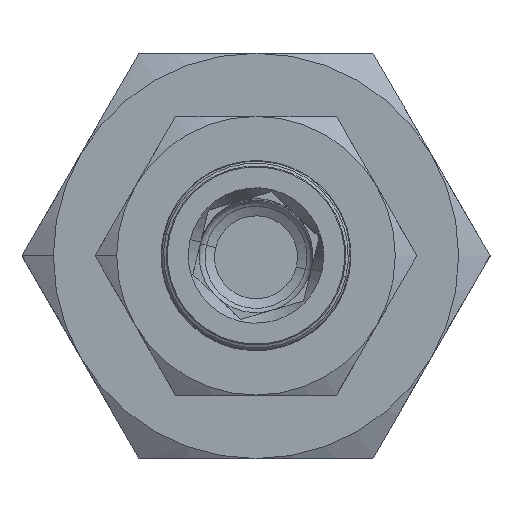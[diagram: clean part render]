
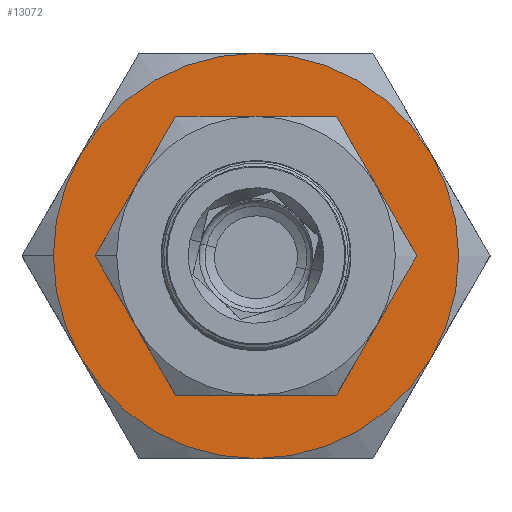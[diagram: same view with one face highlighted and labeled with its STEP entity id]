
A CAD part, top view. The second image highlights one B-rep face of the part: STEP entity #13072.
In plain terms, the highlighted planar face has unit normal (0, 0, 1).
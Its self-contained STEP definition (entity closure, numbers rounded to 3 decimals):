
#603 = CARTESIAN_POINT ( 'NONE',  ( 0., 0., 6.5 ) ) ;
#985 = AXIS2_PLACEMENT_3D ( 'NONE', #7402, #17688, #8867 ) ;
#1100 = ORIENTED_EDGE ( 'NONE', *, *, #1551, .F. ) ;
#1161 = CARTESIAN_POINT ( 'NONE',  ( -7.5, 0., 6.5 ) ) ;
#1361 = ORIENTED_EDGE ( 'NONE', *, *, #19004, .F. ) ;
#1551 = EDGE_CURVE ( 'NONE', #2600, #11977, #4075, .T. ) ;
#1729 = EDGE_CURVE ( 'NONE', #9545, #17707, #15802, .T. ) ;
#2073 = DIRECTION ( 'NONE',  ( -1., 0., 0. ) ) ;
#2600 = VERTEX_POINT ( 'NONE', #16446 ) ;
#2727 = CARTESIAN_POINT ( 'NONE',  ( 0., 0., 6.5 ) ) ;
#3029 = AXIS2_PLACEMENT_3D ( 'NONE', #13507, #4704, #15000 ) ;
#3318 = ORIENTED_EDGE ( 'NONE', *, *, #17026, .F. ) ;
#3346 = CIRCLE ( 'NONE', #17464, 16. ) ;
#3421 = CARTESIAN_POINT ( 'NONE',  ( 13.856, 8., 6.5 ) ) ;
#3493 = ORIENTED_EDGE ( 'NONE', *, *, #4100, .F. ) ;
#3947 = DIRECTION ( 'NONE',  ( 0., 0., -1. ) ) ;
#4024 = CIRCLE ( 'NONE', #6538, 16. ) ;
#4075 = CIRCLE ( 'NONE', #14611, 16. ) ;
#4100 = EDGE_CURVE ( 'NONE', #12115, #6884, #8941, .T. ) ;
#4102 = CARTESIAN_POINT ( 'NONE',  ( 13.856, -8., 6.5 ) ) ;
#4204 = DIRECTION ( 'NONE',  ( -1., 0., 0. ) ) ;
#4704 = DIRECTION ( 'NONE',  ( 0., 0., -1. ) ) ;
#5355 = CARTESIAN_POINT ( 'NONE',  ( 0., 0., 6.5 ) ) ;
#5550 = ORIENTED_EDGE ( 'NONE', *, *, #10866, .T. ) ;
#5727 = AXIS2_PLACEMENT_3D ( 'NONE', #8499, #18786, #9991 ) ;
#5790 = PLANE ( 'NONE',  #7591 ) ;
#6310 = ORIENTED_EDGE ( 'NONE', *, *, #10977, .F. ) ;
#6538 = AXIS2_PLACEMENT_3D ( 'NONE', #603, #10884, #2073 ) ;
#6849 = DIRECTION ( 'NONE',  ( -1., 0., 0. ) ) ;
#6884 = VERTEX_POINT ( 'NONE', #13183 ) ;
#6886 = CIRCLE ( 'NONE', #7344, 16. ) ;
#6914 = CARTESIAN_POINT ( 'NONE',  ( -16., 0., 6.5 ) ) ;
#7126 = CARTESIAN_POINT ( 'NONE',  ( 0., 0., 6.5 ) ) ;
#7297 = ORIENTED_EDGE ( 'NONE', *, *, #12672, .F. ) ;
#7344 = AXIS2_PLACEMENT_3D ( 'NONE', #12749, #3947, #14243 ) ;
#7402 = CARTESIAN_POINT ( 'NONE',  ( 0., 0., 6.5 ) ) ;
#7450 = DIRECTION ( 'NONE',  ( 0., 0., -1. ) ) ;
#7591 = AXIS2_PLACEMENT_3D ( 'NONE', #16274, #7450, #17739 ) ;
#8054 = CARTESIAN_POINT ( 'NONE',  ( 0., 0., 6.5 ) ) ;
#8222 = ORIENTED_EDGE ( 'NONE', *, *, #1729, .T. ) ;
#8459 = AXIS2_PLACEMENT_3D ( 'NONE', #7126, #17412, #8599 ) ;
#8499 = CARTESIAN_POINT ( 'NONE',  ( 0., 0., 6.5 ) ) ;
#8599 = DIRECTION ( 'NONE',  ( -1., 0., 0. ) ) ;
#8867 = DIRECTION ( 'NONE',  ( -1., 0., 0. ) ) ;
#8941 = CIRCLE ( 'NONE', #985, 16. ) ;
#9178 = CIRCLE ( 'NONE', #8459, 16. ) ;
#9535 = DIRECTION ( 'NONE',  ( -1., 0., 0. ) ) ;
#9545 = VERTEX_POINT ( 'NONE', #1161 ) ;
#9556 = AXIS2_PLACEMENT_3D ( 'NONE', #8054, #18350, #9535 ) ;
#9573 = CIRCLE ( 'NONE', #9556, 7.5 ) ;
#9991 = DIRECTION ( 'NONE',  ( -1., 0., 0. ) ) ;
#10341 = EDGE_LOOP ( 'NONE', ( #8222, #5550 ) ) ;
#10859 = CARTESIAN_POINT ( 'NONE',  ( 0., -16., 6.5 ) ) ;
#10866 = EDGE_CURVE ( 'NONE', #17707, #9545, #9573, .T. ) ;
#10884 = DIRECTION ( 'NONE',  ( 0., 0., -1. ) ) ;
#10977 = EDGE_CURVE ( 'NONE', #12436, #12115, #3346, .T. ) ;
#11069 = FACE_BOUND ( 'NONE', #10341, .T. ) ;
#11914 = VERTEX_POINT ( 'NONE', #4102 ) ;
#11977 = VERTEX_POINT ( 'NONE', #3421 ) ;
#12115 = VERTEX_POINT ( 'NONE', #6914 ) ;
#12436 = VERTEX_POINT ( 'NONE', #17695 ) ;
#12672 = EDGE_CURVE ( 'NONE', #14567, #12436, #14267, .T. ) ;
#12749 = CARTESIAN_POINT ( 'NONE',  ( 0., 0., 6.5 ) ) ;
#13007 = DIRECTION ( 'NONE',  ( 0., 0., -1. ) ) ;
#13072 = ADVANCED_FACE ( 'NONE', ( #11069, #18891 ), #5790, .F. ) ;
#13183 = CARTESIAN_POINT ( 'NONE',  ( -13.856, 8., 6.5 ) ) ;
#13463 = EDGE_CURVE ( 'NONE', #11977, #11914, #9178, .T. ) ;
#13507 = CARTESIAN_POINT ( 'NONE',  ( 0., 0., 6.5 ) ) ;
#14243 = DIRECTION ( 'NONE',  ( -1., 0., 0. ) ) ;
#14267 = CIRCLE ( 'NONE', #5727, 16. ) ;
#14567 = VERTEX_POINT ( 'NONE', #10859 ) ;
#14611 = AXIS2_PLACEMENT_3D ( 'NONE', #2727, #13007, #4204 ) ;
#15000 = DIRECTION ( 'NONE',  ( -1., 0., 0. ) ) ;
#15648 = DIRECTION ( 'NONE',  ( 0., 0., -1. ) ) ;
#15670 = CARTESIAN_POINT ( 'NONE',  ( 7.5, 0., 6.5 ) ) ;
#15802 = CIRCLE ( 'NONE', #3029, 7.5 ) ;
#16274 = CARTESIAN_POINT ( 'NONE',  ( 18.475, 0., 6.5 ) ) ;
#16446 = CARTESIAN_POINT ( 'NONE',  ( 0., 16., 6.5 ) ) ;
#16987 = EDGE_LOOP ( 'NONE', ( #1361, #3493, #6310, #7297, #3318, #18900, #1100 ) ) ;
#17026 = EDGE_CURVE ( 'NONE', #11914, #14567, #4024, .T. ) ;
#17412 = DIRECTION ( 'NONE',  ( 0., 0., -1. ) ) ;
#17464 = AXIS2_PLACEMENT_3D ( 'NONE', #5355, #15648, #6849 ) ;
#17688 = DIRECTION ( 'NONE',  ( 0., 0., -1. ) ) ;
#17695 = CARTESIAN_POINT ( 'NONE',  ( -13.856, -8., 6.5 ) ) ;
#17707 = VERTEX_POINT ( 'NONE', #15670 ) ;
#17739 = DIRECTION ( 'NONE',  ( -1., 0., 0. ) ) ;
#18350 = DIRECTION ( 'NONE',  ( 0., 0., -1. ) ) ;
#18786 = DIRECTION ( 'NONE',  ( 0., 0., -1. ) ) ;
#18891 = FACE_OUTER_BOUND ( 'NONE', #16987, .T. ) ;
#18900 = ORIENTED_EDGE ( 'NONE', *, *, #13463, .F. ) ;
#19004 = EDGE_CURVE ( 'NONE', #6884, #2600, #6886, .T. ) ;
